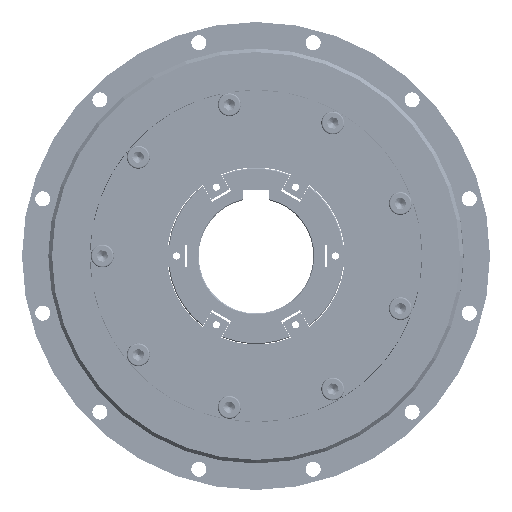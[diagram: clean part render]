
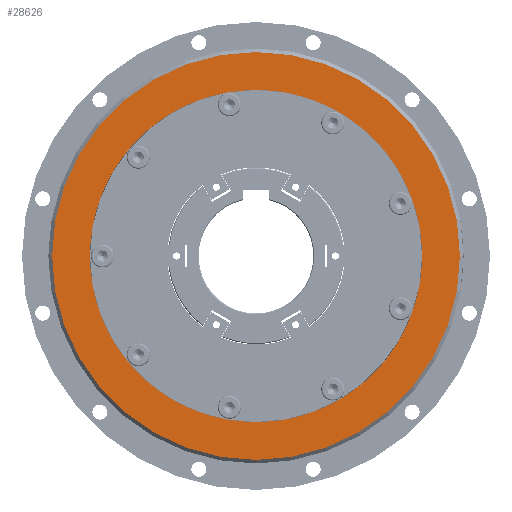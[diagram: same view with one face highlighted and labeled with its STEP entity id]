
A CAD part, left-side view. The second image highlights one B-rep face of the part: STEP entity #28626.
In plain terms, the highlighted planar face has unit normal (-1, 0, 0).
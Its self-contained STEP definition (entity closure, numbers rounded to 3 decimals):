
#1342=FACE_BOUND('',#5710,.T.);
#2455=CIRCLE('',#30744,115.5);
#2456=CIRCLE('',#30746,94.);
#2457=CIRCLE('',#30747,94.);
#4104=FACE_OUTER_BOUND('',#5709,.T.);
#5709=EDGE_LOOP('',(#21069));
#5710=EDGE_LOOP('',(#21070,#21071));
#11864=VERTEX_POINT('',#73632);
#11865=VERTEX_POINT('',#73636);
#11866=VERTEX_POINT('',#73637);
#15298=EDGE_CURVE('',#11864,#11864,#2455,.T.);
#15299=EDGE_CURVE('',#11865,#11866,#2456,.T.);
#15300=EDGE_CURVE('',#11866,#11865,#2457,.T.);
#21069=ORIENTED_EDGE('',*,*,#15298,.F.);
#21070=ORIENTED_EDGE('',*,*,#15299,.T.);
#21071=ORIENTED_EDGE('',*,*,#15300,.T.);
#26688=PLANE('',#30745);
#28626=ADVANCED_FACE('',(#4104,#1342),#26688,.T.);
#30744=AXIS2_PLACEMENT_3D('',#73634,#35424,#35425);
#30745=AXIS2_PLACEMENT_3D('',#73635,#35426,#35427);
#30746=AXIS2_PLACEMENT_3D('',#73638,#35428,#35429);
#30747=AXIS2_PLACEMENT_3D('',#73639,#35430,#35431);
#35424=DIRECTION('center_axis',(1.,0.,0.));
#35425=DIRECTION('ref_axis',(0.,1.,0.));
#35426=DIRECTION('center_axis',(-1.,0.,0.));
#35427=DIRECTION('ref_axis',(0.,0.,-1.));
#35428=DIRECTION('center_axis',(1.,0.,0.));
#35429=DIRECTION('ref_axis',(0.,-1.,0.));
#35430=DIRECTION('center_axis',(1.,0.,0.));
#35431=DIRECTION('ref_axis',(0.,-1.,0.));
#73632=CARTESIAN_POINT('',(-45.,-115.5,0.));
#73634=CARTESIAN_POINT('Origin',(-45.,0.,0.));
#73635=CARTESIAN_POINT('Origin',(-45.,-105.75,0.));
#73636=CARTESIAN_POINT('',(-45.,-94.,0.));
#73637=CARTESIAN_POINT('',(-45.,94.,0.));
#73638=CARTESIAN_POINT('Origin',(-45.,0.,0.));
#73639=CARTESIAN_POINT('Origin',(-45.,0.,0.));
